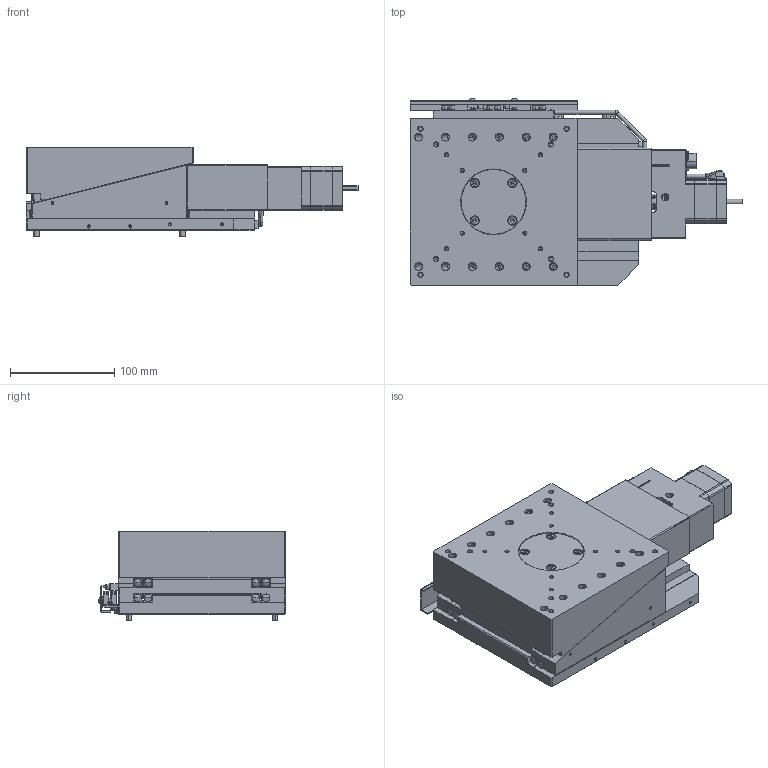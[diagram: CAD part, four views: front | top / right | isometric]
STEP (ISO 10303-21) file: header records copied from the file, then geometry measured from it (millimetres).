
FILE_DESCRIPTION (( 'STEP AP203' ), '1' );
FILE_NAME ('ZA16A-W2C01.STEP', '2019-02-25T05:50:49', ( '' ), ( '' ), 'SwSTEP 2.0', 'SolidWorks 2018', '' );
FILE_SCHEMA (( 'CONFIG_CONTROL_DESIGN' ));
Length unit declared in the file: millimetre
Products named in the file (16): ZA16A-W2C01; bolt-Part-1-3; table; secound table-Part-2; base; bolt-Part-1-1; bolt-3; secound table-Part-1; bolt-Part-1; bolt; bolt-1; bolt-Part-1-2; base-Part-1; base-Part-2; secound table; bolt-2
Assembly tree (15 placements, depth 3):
  ZA16A-W2C01
    base
      base-Part-1
      base-Part-2
    secound table
      secound table-Part-1
      secound table-Part-2
    bolt
      bolt-Part-1
    bolt-1
      bolt-Part-1-1
    bolt-2
      bolt-Part-1-2
    bolt-3
      bolt-Part-1-3
    table
Bounding box: 318 x 179.09 x 86 mm (x, y, z)
Volume: 2335571.5 mm3; surface area: 359756.9 mm2
Topology: 9 solids, 10 shells, 2571 faces, 6175 edges, 3712 vertices
Faces by surface type: plane 1483, cylinder 570, cone 410, torus 48, bspline 36, sphere 24
Entity records: 76176 total; most frequent: CARTESIAN_POINT 14438, DIRECTION 13014, ORIENTED_EDGE 12086, EDGE_CURVE 6043, AXIS2_PLACEMENT_3D 4630, LINE 3754, VECTOR 3754, VERTEX_POINT 3712
